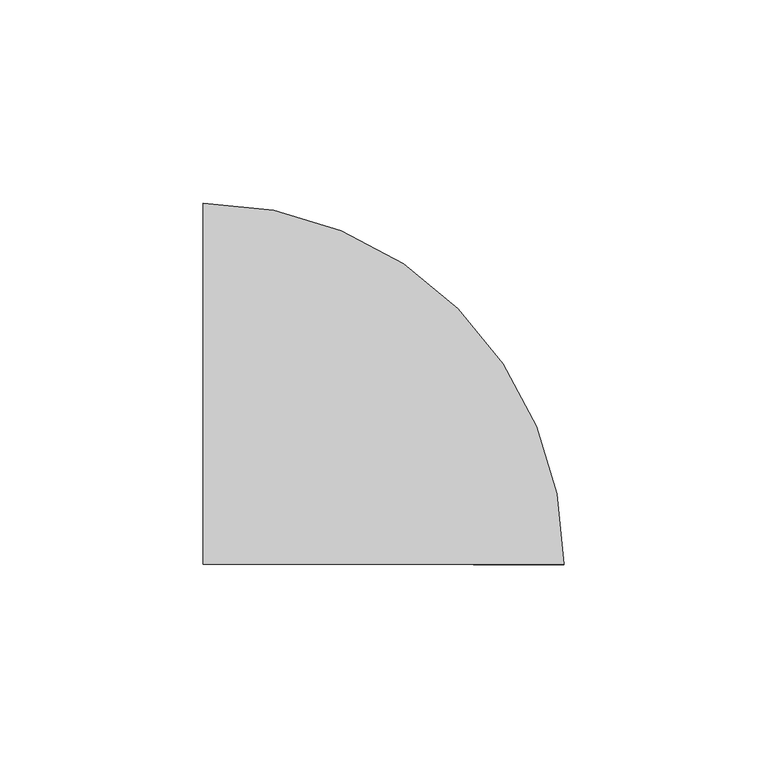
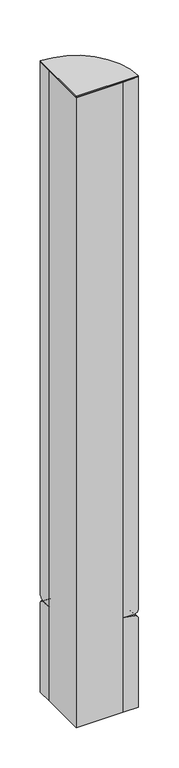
"""IFC4 building model written with IfcOpenShell, lengths in millimetres: furniture geometry."""

import ifcopenshell
import ifcopenshell.guid

model = None  # the IFC model being written
_history = None  # IfcOwnerHistory: only IFC2X3 demands one
_inside = {}  # id of a spatial element -> (the spatial element, [elements in it])
_under = {}  # id of a project, library or spatial element -> (it, [spatial elements below it])
_declared = {}  # id of a project -> (the project, [libraries it declares])
_typed = {}  # id of a type object -> (the type object, [elements of that type])
_made_of = {}  # id of a material, layer set ... -> (it, [elements and type objects made of it])


def new_model(schema):
    """Start an empty IFC model of exactly this schema.

    Asked for "IFC4X3", IfcOpenShell would pick the latest addendum, in which some entities
    have other attributes; the version numbers below select the first issue.
    IFC2X3 requires an IfcOwnerHistory on every rooted entity: one is made here for all.
    """
    global model, _history
    if schema == "IFC4X3":
        model = ifcopenshell.file(schema_version=(4, 3, 0, 0))
    else:
        model = ifcopenshell.file(schema=schema)
    _inside.clear()
    _under.clear()
    _declared.clear()
    _typed.clear()
    _made_of.clear()
    _history = None
    if model.schema == "IFC2X3":
        org = make("IfcOrganization", Name="unknown")
        user = make(
            "IfcPersonAndOrganization",
            ThePerson=make("IfcPerson", FamilyName="unknown"),
            TheOrganization=org,
        )
        app = make(
            "IfcApplication",
            ApplicationDeveloper=org,
            Version="unknown",
            ApplicationFullName="unknown",
            ApplicationIdentifier="unknown",
        )
        _history = make(
            "IfcOwnerHistory",
            OwningUser=user,
            OwningApplication=app,
            ChangeAction="ADDED",
            CreationDate=0,
        )
    return model


def make(cls, **values):
    """One entity of the class cls with the attributes given. An attribute that is None is left unset."""
    return model.create_entity(
        cls, **{name: value for name, value in values.items() if value is not None}
    )


def rooted(cls, **values):
    """An entity with a GlobalId (a new one), such as an element, a storey or a relation."""
    return make(cls, GlobalId=ifcopenshell.guid.new(), OwnerHistory=_history, **values)


def si_unit(unit_type, name, prefix=None):
    """IfcSIUnit, for example si_unit("LENGTHUNIT", "METRE", prefix="MILLI")."""
    return make("IfcSIUnit", UnitType=unit_type, Prefix=prefix, Name=name)


def assignment(units):
    """IfcUnitAssignment: the units of a project."""
    return None if units is None else make("IfcUnitAssignment", Units=units)


def point(xyz):
    """IfcCartesianPoint."""
    return None if xyz is None else make("IfcCartesianPoint", Coordinates=xyz)


def direction(xyz):
    """IfcDirection."""
    return None if xyz is None else make("IfcDirection", DirectionRatios=xyz)


def frame(location, z_axis=None, x_axis=None):
    """IfcAxis2Placement3D, a coordinate frame: its origin and axes. An axis left out is left unset."""
    return make(
        "IfcAxis2Placement3D",
        Location=point(location),
        Axis=direction(z_axis),
        RefDirection=direction(x_axis),
    )


def frame_2d(location, x_axis=None):
    """IfcAxis2Placement2D, a coordinate frame in the plane: its origin and x axis."""
    return make(
        "IfcAxis2Placement2D", Location=point(location), RefDirection=direction(x_axis)
    )


def origin():
    """The frame at (0, 0, 0) with its axes left unset."""
    return frame((0.0, 0.0, 0.0))


def place(relative_to, where):
    """IfcLocalPlacement: puts the frame where relative to a parent placement (None: the world)."""
    return make(
        "IfcLocalPlacement", PlacementRelTo=relative_to, RelativePlacement=where
    )


def context(
    kind, dimensions, precision=None, world=None, true_north=None, identifier=None
):
    """IfcGeometricRepresentationContext, for example the 3D "Model" context."""
    return make(
        "IfcGeometricRepresentationContext",
        ContextIdentifier=identifier,
        ContextType=kind,
        CoordinateSpaceDimension=dimensions,
        Precision=precision,
        WorldCoordinateSystem=world,
        TrueNorth=true_north,
    )


def project(units=None, contexts=None):
    """IfcProject with its units and contexts."""
    return rooted(
        "IfcProject",
        Name="project",
        RepresentationContexts=contexts,
        UnitsInContext=assignment(units),
    )


def spatial(cls, under=None, at=None, **own):
    """A site, building, storey or space (cls), placed at a placement, below another one or the project."""
    s = rooted(cls, ObjectPlacement=at, **own)
    if under is not None:
        _under.setdefault(under.id(), (under, []))[1].append(s)
    return s


def polyline(points):
    """IfcPolyline through the points."""
    return make("IfcPolyline", Points=[point(p) for p in points])


def circle_curve(where, radius):
    """IfcCircle in the frame where."""
    return make("IfcCircle", Position=where, Radius=radius)


def ellipse_curve(where, semi_axis1, semi_axis2):
    """IfcEllipse in the frame where."""
    return make(
        "IfcEllipse", Position=where, SemiAxis1=semi_axis1, SemiAxis2=semi_axis2
    )


def trimmed(basis, trim1, trim2, sense, master):
    """IfcTrimmedCurve: the piece of a basis curve between two trims."""
    return make(
        "IfcTrimmedCurve",
        BasisCurve=basis,
        Trim1=trim1,
        Trim2=trim2,
        SenseAgreement=sense,
        MasterRepresentation=master,
    )


def segment(curve, same_sense, transition):
    """IfcCompositeCurveSegment."""
    return make(
        "IfcCompositeCurveSegment",
        Transition=transition,
        SameSense=same_sense,
        ParentCurve=curve,
    )


def composite_curve(segments, self_intersect=None):
    """IfcCompositeCurve: segments joined end to end."""
    return make("IfcCompositeCurve", Segments=segments, SelfIntersect=self_intersect)


def outline(outer, holes=None, kind="AREA"):
    """IfcArbitraryClosedProfileDef: a profile drawn as a closed curve; with holes, ...WithVoids."""
    if holes is None:
        return make("IfcArbitraryClosedProfileDef", ProfileType=kind, OuterCurve=outer)
    return make(
        "IfcArbitraryProfileDefWithVoids",
        ProfileType=kind,
        OuterCurve=outer,
        InnerCurves=holes,
    )


def extrude(swept, where, along, depth):
    """IfcExtrudedAreaSolid: the profile swept, set in the frame where, extruded along a direction by depth."""
    return make(
        "IfcExtrudedAreaSolid",
        SweptArea=swept,
        Position=where,
        ExtrudedDirection=direction(along),
        Depth=depth,
    )


def shape(context_of_items, identifier, shape_type, items):
    """IfcShapeRepresentation: the items that make up one representation, for example the "Body"."""
    return make(
        "IfcShapeRepresentation",
        ContextOfItems=context_of_items,
        RepresentationIdentifier=identifier,
        RepresentationType=shape_type,
        Items=items,
    )


def source(mapping_origin, context_of_items, identifier, shape_type, items):
    """IfcRepresentationMap: a shape defined once, which mapped items show again and again."""
    return make(
        "IfcRepresentationMap",
        MappingOrigin=mapping_origin,
        MappedRepresentation=shape(context_of_items, identifier, shape_type, items),
    )


def transform(
    local_origin,
    x_axis=None,
    y_axis=None,
    z_axis=None,
    scale=None,
    scale2=None,
    scale3=None,
    uniform=True,
):
    """IfcCartesianTransformationOperator3D, or its non-uniform kind. x_axis, y_axis, z_axis: its Axis1, 2, 3."""
    if uniform:
        return make(
            "IfcCartesianTransformationOperator3D",
            Axis1=direction(x_axis),
            Axis2=direction(y_axis),
            LocalOrigin=point(local_origin),
            Scale=scale,
            Axis3=direction(z_axis),
        )
    return make(
        "IfcCartesianTransformationOperator3DnonUniform",
        Axis1=direction(x_axis),
        Axis2=direction(y_axis),
        LocalOrigin=point(local_origin),
        Scale=scale,
        Axis3=direction(z_axis),
        Scale2=scale2,
        Scale3=scale3,
    )


def mapped(mapping_source, mapping_target):
    """IfcMappedItem: shows the shape of a source again, moved by a transform."""
    return make(
        "IfcMappedItem", MappingSource=mapping_source, MappingTarget=mapping_target
    )


def made_of(thing, what):
    """Note that an element or type object is made of a material, layer set ...; save() writes the relation."""
    if what is not None:
        _made_of.setdefault(what.id(), (what, []))[1].append(thing)
    return thing


def element(
    cls,
    number,
    at=None,
    inside=None,
    cuts=None,
    type_object=None,
    material=None,
    context=None,
    identifier="Body",
    shape_type=None,
    held_by="IfcProductDefinitionShape",
    body=None,
    shapes=None,
    **own,
):
    """One element of the class cls, such as IfcWall. Its Tag is "e" and its number.

    at: its placement. inside: the storey or other place that contains it. cuts: it is an
    opening in that element (IfcRelVoidsElement). A single representation is given by context,
    identifier, shape_type and body (its items); several are given by shapes. held_by: the class
    of the entity that holds the representations. save() writes the other relations.
    """
    e = rooted(cls, Tag="e%d" % number, ObjectPlacement=at, **own)
    if body is not None:
        shapes = [shape(context, identifier, shape_type, body)]
    if shapes is not None:
        e.Representation = make(held_by, Representations=shapes)
    if inside is not None:
        _inside.setdefault(inside.id(), (inside, []))[1].append(e)
    if cuts is not None:
        rooted(
            "IfcRelVoidsElement", RelatingBuildingElement=cuts, RelatedOpeningElement=e
        )
    if type_object is not None:
        _typed.setdefault(type_object.id(), (type_object, []))[1].append(e)
    return made_of(e, material)


def aggregate(whole, parts):
    """IfcRelAggregates: a whole, such as a stair, and the parts it consists of."""
    return rooted("IfcRelAggregates", RelatingObject=whole, RelatedObjects=parts)


def save(model, path):
    """Write the relations noted so far, then the file.

    IfcRelAggregates (storeys below a building ...), IfcRelContainedInSpatialStructure (elements
    in a storey), IfcRelDefinesByType, IfcRelAssociatesMaterial and IfcRelDeclares: one each for
    every whole, place, type object, material and project.
    """
    for whole, parts in _under.values():
        aggregate(whole, parts)
    for where, things in _inside.values():
        rooted(
            "IfcRelContainedInSpatialStructure",
            RelatedElements=things,
            RelatingStructure=where,
        )
    for kind, things in _typed.values():
        rooted("IfcRelDefinesByType", RelatedObjects=things, RelatingType=kind)
    for what, things in _made_of.values():
        rooted("IfcRelAssociatesMaterial", RelatedObjects=things, RelatingMaterial=what)
    for by, libraries in _declared.values():
        rooted("IfcRelDeclares", RelatingContext=by, RelatedDefinitions=libraries)
    model.write(path)


def plane_surface(at):
    """IfcPlane: the flat surface through the origin of the frame at, square to its z axis."""
    return make("IfcPlane", Position=at)


def cylinder_surface(at, radius):
    """IfcCylindricalSurface: all points at the distance radius from the z axis of the frame at."""
    return make("IfcCylindricalSurface", Position=at, Radius=radius)


def revolved_surface(curve, axis_point, axis_direction):
    """IfcSurfaceOfRevolution: the curve turned about the line through axis_point along axis_direction."""
    return make(
        "IfcSurfaceOfRevolution",
        SweptCurve=make("IfcArbitraryOpenProfileDef", ProfileType="CURVE", Curve=curve),
        AxisPosition=make("IfcAxis1Placement", Location=point(axis_point), Axis=direction(axis_direction)),
    )


def advanced_brep(points, edges, surfaces, faces):
    """IfcAdvancedBrep: a solid bounded by faces that lie on surfaces and meet in shared edges.

    An edge is (start, end): straight between two places in points (the first is 0);
    or (start, end, curve); or (start, end, curve, False) where it runs against its curve.
    A face is (place in surfaces, loops), or (place, loops, False) where it looks against
    its surface's normal. A loop lists edges by number (the first is 1), with a minus sign
    where the edge is run from its end to its start. The first loop is the outer one.
    """
    corners = [point(p) for p in points]
    vertices = [make("IfcVertexPoint", VertexGeometry=c) for c in corners]
    made = []
    for start, end, *more in edges:
        made.append(
            make(
                "IfcEdgeCurve",
                EdgeStart=vertices[start],
                EdgeEnd=vertices[end],
                EdgeGeometry=more[0] if more else make("IfcPolyline", Points=[corners[start], corners[end]]),
                SameSense=more[1] if len(more) > 1 else True,
            )
        )
    hull = []
    for where, loops, *sense in faces:
        bounds = []
        for j, loop in enumerate(loops):
            ring = [make("IfcOrientedEdge", EdgeElement=made[abs(k) - 1], Orientation=k > 0) for k in loop]
            bounds.append(
                make(
                    "IfcFaceOuterBound" if j == 0 else "IfcFaceBound",
                    Bound=make("IfcEdgeLoop", EdgeList=ring),
                    Orientation=True,
                )
            )
        hull.append(make("IfcAdvancedFace", Bounds=bounds, FaceSurface=surfaces[where], SameSense=sense[0] if sense else True))
    return make("IfcAdvancedBrep", Outer=make("IfcClosedShell", CfsFaces=hull))


def furniture_e496f4a3(model_context):
    return source(origin(), model_context, "Body", "SolidModel", [
        extrude(outline(polyline([(-19.0499981, 30.3902108), (-9.5249951, 30.3902108), (-9.5249951, -26.7597869), (47.6250049, -26.7597869), (47.6250049, -36.2847899), (-19.0499981, -36.2847899), (-19.0499981, 30.3902108)])), frame((0.0, 0.0, 9.525), z_axis=(0.0, 0.0, 1.0), x_axis=(1.0, 0.0, 0.0)), (0.0, 0.0, 1.0), 954.0875),
        advanced_brep(
        [(69.8500019, -36.2847899, 963.6125), (-19.0499981, 52.6152101, 963.6125), (-19.0499981, 30.3902108, 963.6125), (-9.5249951, 30.3902108, 963.6125), (-9.5249951, -26.7597869, 963.6125), (47.6250049, -26.7597869, 963.6125), (47.6250049, -36.2847899, 963.6125), (47.6250049, -36.2847899, 152.4), (47.6250049, -26.7597869, 152.4), (-9.5249951, -26.7597869, 152.4), (-9.5249951, 30.3902108, 152.4), (-19.0499981, 30.3902108, 152.4), (-19.0499981, 46.6462101, 152.4), (63.8810019, -36.2847899, 152.4), (69.8500019, -36.2847899, 158.369), (-19.0499981, 52.6152101, 158.369)],
        [
            (0, 1, circle_curve(frame((-19.0499981, -36.2847899, 963.6125), z_axis=(0.0, 0.0, 1.0), x_axis=(0.0, 1.0, 0.0)), 88.9)),
            (1, 2),
            (2, 3),
            (3, 4),
            (4, 5),
            (5, 6),
            (6, 0),
            (7, 8),
            (8, 9),
            (9, 10),
            (10, 11),
            (11, 12),
            (12, 13, circle_curve(frame((-19.0499981, -36.2847899, 152.4), z_axis=(0.0, 0.0, -1.0), x_axis=(0.0, 1.0, 0.0)), 82.931)),
            (13, 7),
            (0, 14),
            (14, 15, circle_curve(frame((-19.0499981, -36.2847899, 158.369), z_axis=(0.0, 0.0, 1.0), x_axis=(0.0, 1.0, 0.0)), 88.9)),
            (15, 1),
            (15, 12, circle_curve(frame((-19.0499981, 46.6462101, 158.369), z_axis=(-1.0, 0.0, 0.0), x_axis=(0.0, 1.0, 0.0)), 5.969)),
            (11, 2),
            (10, 3),
            (9, 4),
            (8, 5),
            (7, 6),
            (13, 14, circle_curve(frame((63.8810019, -36.2847899, 158.369), z_axis=(0.0, -1.0, 0.0), x_axis=(1.0, 0.0, 0.0)), 5.969)),
        ],
        [
            plane_surface(frame((-19.0499981, 52.6152101, 963.6125), z_axis=(0.0, 0.0, 1.0), x_axis=(-1.0, 0.0, 0.0))),
            plane_surface(frame((-19.0499981, 52.6152101, 152.4), z_axis=(0.0, 0.0, -1.0), x_axis=(1.0, 0.0, 0.0))),
            cylinder_surface(frame((-19.0499981, -36.2847899, 152.4), z_axis=(0.0, 0.0, 1.0), x_axis=(0.0, 1.0, 0.0)), 88.9),
            plane_surface(frame((-19.0499981, 52.6152101, 963.6125), z_axis=(-1.0, 0.0, 0.0), x_axis=(0.0, 0.0, -1.0))),
            plane_surface(frame((-19.0499981, 30.3902108, 963.6125), z_axis=(0.0, -1.0, 0.0), x_axis=(0.0, 0.0, -1.0))),
            plane_surface(frame((-9.5249951, 30.3902108, 963.6125), z_axis=(-1.0, 0.0, 0.0), x_axis=(0.0, 0.0, -1.0))),
            plane_surface(frame((-9.5249951, -26.7597869, 963.6125), z_axis=(0.0, -1.0, 0.0), x_axis=(0.0, 0.0, -1.0))),
            plane_surface(frame((47.6250049, -26.7597869, 963.6125), z_axis=(-1.0, 0.0, 0.0), x_axis=(0.0, 0.0, -1.0))),
            plane_surface(frame((47.6250049, -36.2847899, 963.6125), z_axis=(0.0, -1.0, 0.0), x_axis=(0.0, 0.0, -1.0))),
            revolved_surface(trimmed(ellipse_curve(frame((-19.0499981, 46.6462101, 158.369), z_axis=(-1.0, 0.0, 0.0), x_axis=(0.0, 1.0, 0.0)), 5.969, 5.969), [point((-19.0499981, 52.6152101, 158.369))], [point((-19.0499981, 46.6462101, 152.4))], True, "CARTESIAN"), (-19.0499981, -36.2847899, 152.4885388), (0.0, 0.0, -1.0)),
        ],
        [
            (0, [[1, 2, 3, 4, 5, 6, 7]]),
            (1, [[8, 9, 10, 11, 12, 13, 14]]),
            (2, [[-1, 15, 16, 17]]),
            (3, [[-2, -17, 18, -12, 19]]),
            (4, [[-3, -19, -11, 20]]),
            (5, [[-4, -20, -10, 21]]),
            (6, [[-5, -21, -9, 22]]),
            (7, [[-6, -22, -8, 23]]),
            (8, [[-7, -23, -14, 24, -15]]),
            (9, [[-13, -18, -16, -24]]),
        ],
    ),
        extrude(outline(composite_curve([segment(polyline([(-19.0499981, -36.2847899), (-19.0499981, 52.6152101)]), True, "CONTINUOUS"), segment(trimmed(circle_curve(frame_2d((-19.0499981, -36.2847899)), 88.9), [point((-19.0499981, 52.6152101))], [point((69.8500019, -36.2847899))], False, "CARTESIAN"), True, "CONTINUOUS"), segment(polyline([(69.8500019, -36.2847899), (-19.0499981, -36.2847899)]), True, "CONTINUOUS")], self_intersect=False)), frame((0.0, 0.0, 963.6125), z_axis=(0.0, 0.0, 1.0), x_axis=(1.0, 0.0, 0.0)), (0.0, 0.0, 1.0), 1.5875),
        advanced_brep(
        [(-19.0499981, 52.6152101, 9.525), (-19.0499981, 30.3902108, 9.525), (-19.0499981, 30.3902108, 152.4009559), (-19.0499981, 47.5974, 149.942786), (-19.0499981, 52.6152101, 144.1572024), (69.8500019, -36.2847899, 9.525), (69.8500019, -36.2847899, 144.1572024), (64.8321919, -36.2847899, 149.942786), (47.6250026, -36.2847899, 152.4009559), (47.6250026, -36.2847899, 9.525)],
        [
            (0, 1),
            (1, 2),
            (2, 3),
            (3, 4, circle_curve(frame((-19.0499981, 46.7708881, 144.1572024), z_axis=(-1.0, 0.0, 0.0), x_axis=(0.0, 1.0, 0.0)), 5.844322)),
            (4, 0),
            (5, 6),
            (6, 7, circle_curve(frame((64.0056799, -36.2847899, 144.1572024), z_axis=(0.0, -1.0, 0.0), x_axis=(1.0, 0.0, 0.0)), 5.844322)),
            (7, 8),
            (8, 9),
            (9, 5),
            (0, 5, circle_curve(frame((-19.0499981, -36.2847899, 9.525), z_axis=(0.0, 0.0, -1.0), x_axis=(0.0, 1.0, 0.0)), 88.9)),
            (9, 1, circle_curve(frame((-19.0499981, -36.2847899, 9.525), z_axis=(0.0, 0.0, 1.0), x_axis=(0.0, 1.0, 0.0)), 66.6750008)),
            (8, 2, circle_curve(frame((-19.0499981, -36.2847899, 152.4009559), z_axis=(0.0, 0.0, 1.0), x_axis=(0.0, 1.0, 0.0)), 66.6750008)),
            (7, 3, circle_curve(frame((-19.0499981, -36.2847899, 149.942786), z_axis=(0.0, 0.0, 1.0), x_axis=(0.0, 1.0, 0.0)), 83.88219)),
            (6, 4, circle_curve(frame((-19.0499981, -36.2847899, 144.1572024), z_axis=(0.0, 0.0, 1.0), x_axis=(0.0, 1.0, 0.0)), 88.9)),
        ],
        [
            plane_surface(frame((-19.0499981, 52.6152101, 152.4885388), z_axis=(-1.0, 0.0, 0.0), x_axis=(0.0, 0.0, 1.0))),
            plane_surface(frame((69.8500019, -36.2847899, 152.4885388), z_axis=(0.0, -1.0, 0.0), x_axis=(0.0, 0.0, 1.0))),
            plane_surface(frame((-19.0499981, -36.2847899, 9.525), z_axis=(0.0, 0.0, -1.0), x_axis=(0.0, 1.0, 0.0))),
            revolved_surface(polyline([(-19.0499981, 30.390210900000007, 9.525000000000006), (-19.0499981, 30.390210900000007, 152.4009559)]), (-19.0499981, -36.2847899, 152.4885388), (0.0, 0.0, -1.0)),
            revolved_surface(polyline([(-19.0499981, 30.3902108, 152.4009559), (-19.0499981, 47.5974, 149.942786)]), (-19.0499981, -36.2847899, 152.4885388), (0.0, 0.0, -1.0)),
            revolved_surface(trimmed(ellipse_curve(frame((-19.0499981, 46.7708881, 144.1572024), z_axis=(-1.0, 0.0, 0.0), x_axis=(0.0, 1.0, 0.0)), 5.844322, 5.844322), [point((-19.0499981, 47.5974, 149.942786))], [point((-19.0499981, 52.6152101, 144.1572024))], True, "CARTESIAN"), (-19.0499981, -36.2847899, 152.4885388), (0.0, 0.0, -1.0)),
            cylinder_surface(frame((-19.0499981, -36.2847899, 152.4885388), z_axis=(0.0, 0.0, -1.0), x_axis=(0.0, 1.0, 0.0)), 88.9),
        ],
        [
            (0, [[1, 2, 3, 4, 5]]),
            (1, [[6, 7, 8, 9, 10]]),
            (2, [[-1, 11, -10, 12]]),
            (3, [[-2, -12, -9, 13]]),
            (4, [[-3, -13, -8, 14]]),
            (5, [[-4, -14, -7, 15]]),
            (6, [[-5, -15, -6, -11]]),
        ],
    ),
    ])


if __name__ == "__main__":
    model = new_model("IFC4")
    model_context = context("Model", 3, world=origin())
    ifc_project = project(units=[si_unit("LENGTHUNIT", "METRE", prefix="MILLI")], contexts=[model_context])
    site = spatial("IfcSite", under=ifc_project)
    building = spatial("IfcBuilding", under=site)
    placement = place(None, origin())
    furniture_shape = furniture_e496f4a3(model_context)
    element("IfcFurniture", 1, ObjectType="HermanMiller_Ethospace_E1220_90DegreeConnector : Vnyl 38\"H 2-Way Rds-N", at=placement, inside=building, context=model_context, shape_type="MappedRepresentation", body=[
        mapped(furniture_shape, transform((0.0, 0.0, 0.0), x_axis=(1.0, 0.0, 0.0), y_axis=(0.0, 1.0, 0.0), z_axis=(0.0, 0.0, 1.0))),
    ])
    save(model, "model.ifc")
